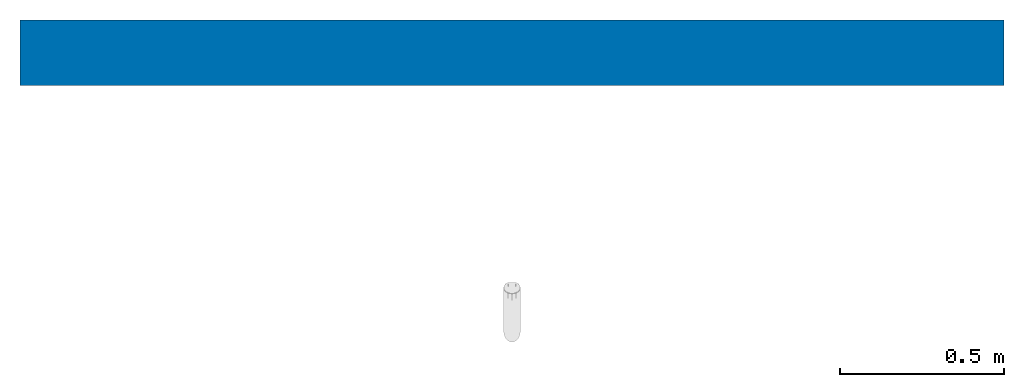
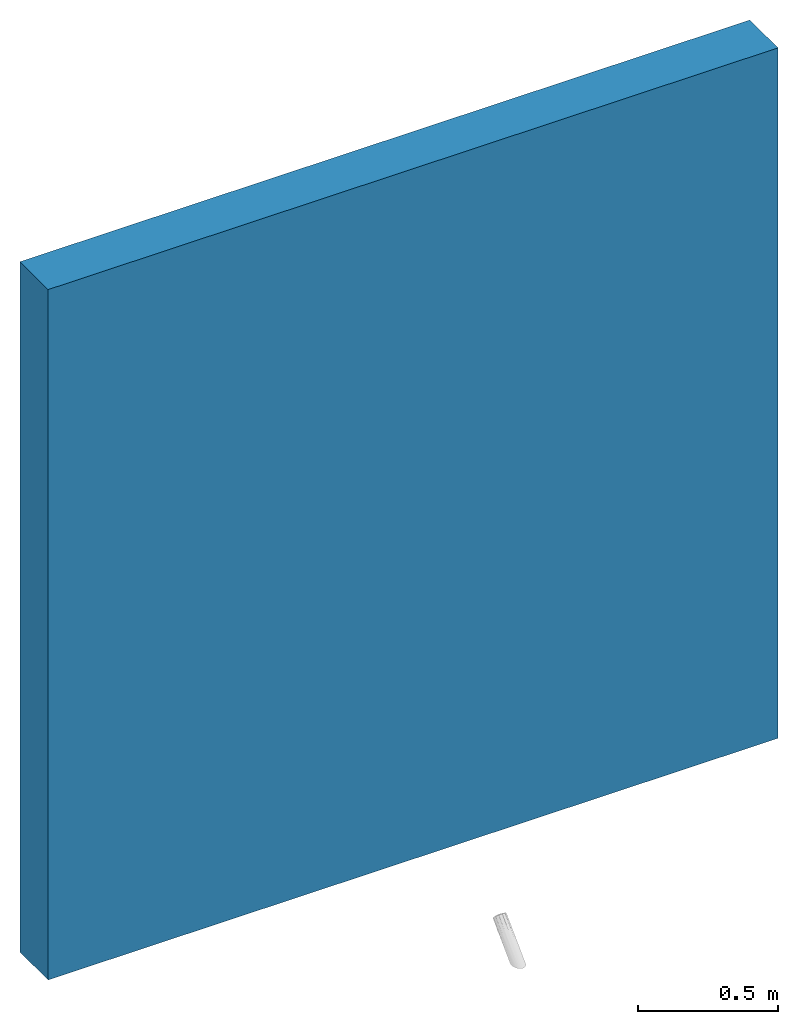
# One storey, part 1 of 2: 1 wall.
"""IFC2X3 building model written with IfcOpenShell, lengths in millimetres."""

from ifc_helpers import new_model, entity, si_unit, converted_unit, frame, frame_2d, origin, place, context, project, spatial, rectangle, extrude, material, layer, layer_set, layer_usage, element, save


model = new_model("IFC2X3")

# Units and contexts
model_context = context("Model", 3, precision=1e-06, world=origin())
plan_context = context("Plan", 3, precision=1e-06, world=origin())
ifc_project = project(units=[si_unit("LENGTHUNIT", "METRE", prefix="MILLI"), si_unit("AREAUNIT", "SQUARE_METRE", prefix="MILLI"), si_unit("VOLUMEUNIT", "CUBIC_METRE", prefix="MILLI"), converted_unit("PLANEANGLEUNIT", "DEGREE", entity("IfcRatioMeasure", 0.01745329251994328), si_unit("PLANEANGLEUNIT", "RADIAN"), dimensions=[0, 0, 0, 0, 0, 0, 0]), si_unit("TIMEUNIT", "SECOND")], contexts=[model_context, plan_context])

# Site, building, storey
site_placement = place(None, origin())
site = spatial("IfcSite", under=ifc_project, at=site_placement, Name="Default", CompositionType="ELEMENT")
building_placement = place(site_placement, origin())
building = spatial("IfcBuilding", under=site, at=building_placement, CompositionType="ELEMENT")
storey_placement = place(building_placement, origin())
storey = spatial("IfcBuildingStorey", under=building, at=storey_placement, Name="Level 1", CompositionType="ELEMENT", Elevation=0.0)

# Wall
ifc_material = material(Name="Default Wall")
ifc_layer = layer(ifc_material, 200.0)
ifc_layer_set = layer_set([ifc_layer], Name="Basic Wall:Generic - 200mm")
ifc_layer_usage = layer_usage(ifc_layer_set, "AXIS2", "NEGATIVE", 100.0)
wall_placement = place(storey_placement, frame((-3706.751352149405, -612.900951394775, 0.0)))
element("IfcWallStandardCase", 1, at=wall_placement, inside=storey, material=ifc_layer_usage, Name="Basic Wall:Generic - 200mm", ObjectType="Basic Wall:Generic - 200mm:398", context=model_context, shape_type="SweptSolid", body=[
    extrude(rectangle(XDim=3000.0, YDim=200.0, at=frame_2d((1500.0, 0.0), x_axis=(-1.0, 0.0))), origin(), (0.0, 0.0, 1.0), 3000.0),
])

save(model, "model.ifc")
